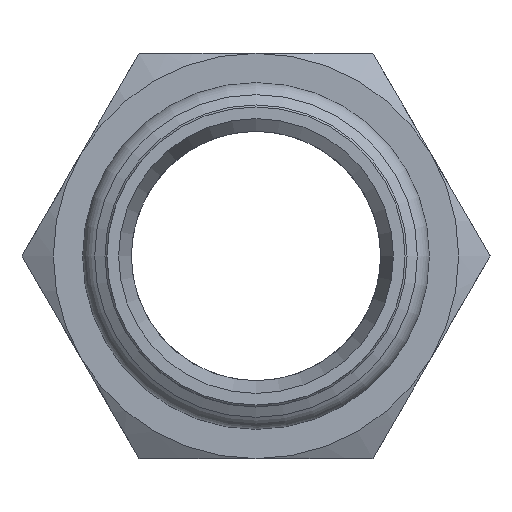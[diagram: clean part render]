
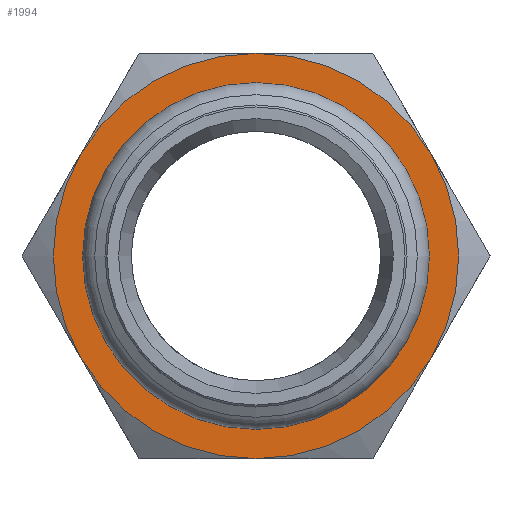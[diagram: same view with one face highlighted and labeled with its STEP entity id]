
A CAD part, left-side view. The second image highlights one B-rep face of the part: STEP entity #1994.
In plain terms, the highlighted planar face has unit normal (-1, 0, 0) as drawn and (0, 0, 1) by its records, which use the part's own axes.
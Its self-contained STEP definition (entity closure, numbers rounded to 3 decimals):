
#1337=CARTESIAN_POINT('',(19.5,0.,0.0));
#1338=VERTEX_POINT('',#1337);
#1339=CARTESIAN_POINT('',(0.0,0.0,0.0));
#1340=DIRECTION('',(0.0,0.0,-1.0));
#1341=DIRECTION('',(-1.0,0.0,0.0));
#1342=AXIS2_PLACEMENT_3D('',#1339,#1340,#1341);
#1343=CIRCLE('',#1342,19.5);
#1344=EDGE_CURVE('',#1338,#1338,#1343,.T.);
#1379=CARTESIAN_POINT('',(0.0,-26.,0.0));
#1380=VERTEX_POINT('',#1379);
#1394=CARTESIAN_POINT('',(22.517,-13.,0.0));
#1395=VERTEX_POINT('',#1394);
#1409=CARTESIAN_POINT('',(0.0,0.0,0.0));
#1410=DIRECTION('',(0.0,0.0,1.0));
#1411=DIRECTION('',(1.0,0.0,0.0));
#1412=AXIS2_PLACEMENT_3D('',#1409,#1410,#1411);
#1413=CIRCLE('',#1412,26.0);
#1414=EDGE_CURVE('',#1380,#1395,#1413,.T.);
#1426=CARTESIAN_POINT('',(-22.517,-13.,0.0));
#1427=VERTEX_POINT('',#1426);
#1454=CARTESIAN_POINT('',(0.0,0.0,0.0));
#1455=DIRECTION('',(0.0,0.0,1.0));
#1456=DIRECTION('',(1.0,0.0,0.0));
#1457=AXIS2_PLACEMENT_3D('',#1454,#1455,#1456);
#1458=CIRCLE('',#1457,26.0);
#1459=EDGE_CURVE('',#1427,#1380,#1458,.T.);
#1471=CARTESIAN_POINT('',(-22.517,13.,0.0));
#1472=VERTEX_POINT('',#1471);
#1499=CARTESIAN_POINT('',(0.0,0.0,0.0));
#1500=DIRECTION('',(0.0,0.0,1.0));
#1501=DIRECTION('',(1.0,0.0,0.0));
#1502=AXIS2_PLACEMENT_3D('',#1499,#1500,#1501);
#1503=CIRCLE('',#1502,26.0);
#1504=EDGE_CURVE('',#1472,#1427,#1503,.T.);
#1529=CARTESIAN_POINT('',(0.0,26.,0.0));
#1530=VERTEX_POINT('',#1529);
#1531=CARTESIAN_POINT('',(0.0,0.0,0.0));
#1532=DIRECTION('',(0.0,0.0,1.0));
#1533=DIRECTION('',(1.0,0.0,0.0));
#1534=AXIS2_PLACEMENT_3D('',#1531,#1532,#1533);
#1535=CIRCLE('',#1534,26.0);
#1536=EDGE_CURVE('',#1530,#1472,#1535,.T.);
#1574=CARTESIAN_POINT('',(22.517,13.,0.0));
#1575=VERTEX_POINT('',#1574);
#1576=CARTESIAN_POINT('',(0.0,0.0,0.0));
#1577=DIRECTION('',(0.0,0.0,1.0));
#1578=DIRECTION('',(1.0,0.0,0.0));
#1579=AXIS2_PLACEMENT_3D('',#1576,#1577,#1578);
#1580=CIRCLE('',#1579,26.0);
#1581=EDGE_CURVE('',#1575,#1530,#1580,.T.);
#1619=CARTESIAN_POINT('',(0.0,0.0,0.0));
#1620=DIRECTION('',(0.0,0.0,1.0));
#1621=DIRECTION('',(1.0,0.0,0.0));
#1622=AXIS2_PLACEMENT_3D('',#1619,#1620,#1621);
#1623=CIRCLE('',#1622,26.0);
#1624=EDGE_CURVE('',#1395,#1575,#1623,.T.);
#1978=CARTESIAN_POINT('',(0.0,0.,0.0));
#1979=DIRECTION('',(0.0,0.0,1.0));
#1980=DIRECTION('',(1.0,0.0,0.0));
#1981=AXIS2_PLACEMENT_3D('',#1978,#1979,#1980);
#1982=PLANE('',#1981);
#1983=ORIENTED_EDGE('',*,*,#1624,.T.);
#1984=ORIENTED_EDGE('',*,*,#1581,.T.);
#1985=ORIENTED_EDGE('',*,*,#1536,.T.);
#1986=ORIENTED_EDGE('',*,*,#1504,.T.);
#1987=ORIENTED_EDGE('',*,*,#1459,.T.);
#1988=ORIENTED_EDGE('',*,*,#1414,.T.);
#1989=EDGE_LOOP('',(#1983,#1984,#1985,#1986,#1987,#1988));
#1990=FACE_OUTER_BOUND('',#1989,.T.);
#1991=ORIENTED_EDGE('',*,*,#1344,.T.);
#1992=EDGE_LOOP('',(#1991));
#1993=FACE_BOUND('',#1992,.T.);
#1994=ADVANCED_FACE('',(#1990,#1993),#1982,.T.);
